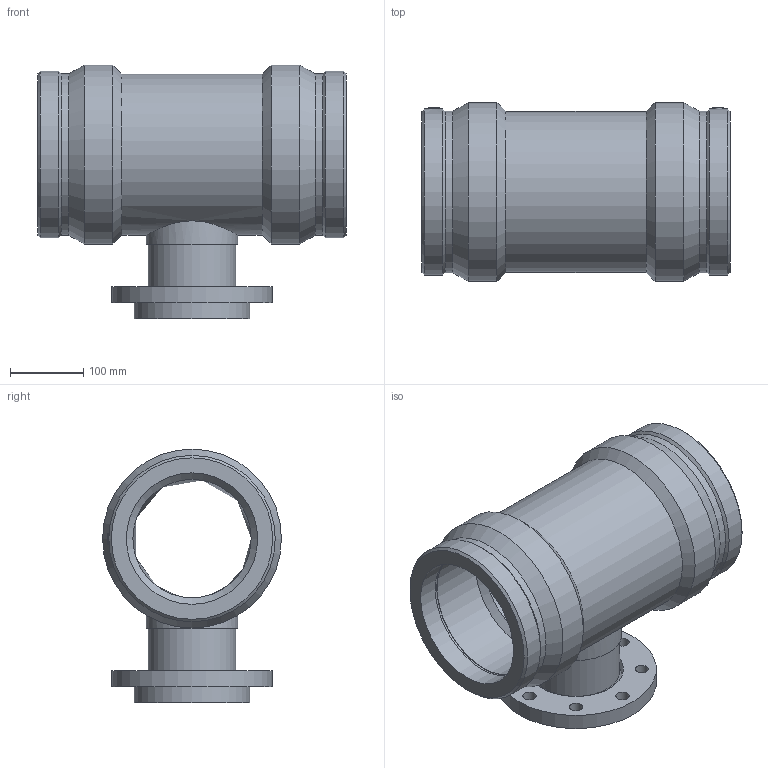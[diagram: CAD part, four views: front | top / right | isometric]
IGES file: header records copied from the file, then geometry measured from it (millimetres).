
Global section: file name: 499404180100.ipt; native system: Autodesk Inventor 2015; preprocessor: unknown; author: KIM; date: 20171106.094455; units: millimetre
Bounding box: 422 x 245 x 347.5 mm (x, y, z)
Volume: 8356223.1 mm3; surface area: 743726.1 mm2
Topology: 1 solids, 2 shells, 60 faces, 136 edges, 90 vertices
Faces by surface type: revolution 21, plane 14, cylinder 13, cone 11, bspline 1
Full cylindrical faces by diameter (mm): 4 x2, 120 x1, 125 x1, 158 x1, 220 x1, 220.5 x1, 221.014 x2, 227.85 x2, 245 x2
